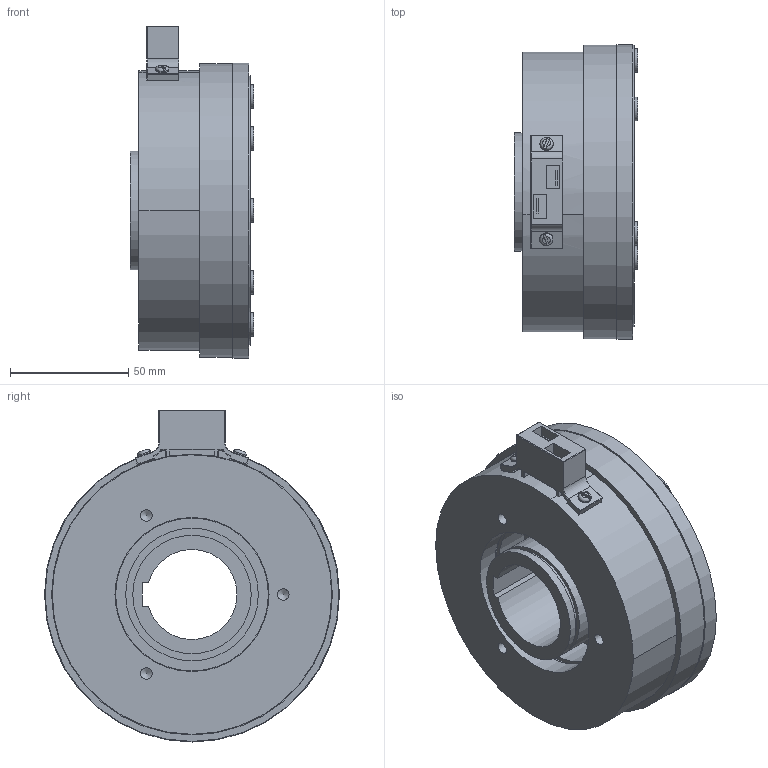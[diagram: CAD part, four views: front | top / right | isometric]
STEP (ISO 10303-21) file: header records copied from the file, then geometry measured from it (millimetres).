
FILE_DESCRIPTION(/* description */ (''),/* implementation_level */ '2;1');
FILE_NAME(/* name */ 'X:\INVENTOR\DISEGNI\08_Freni_Friz_Elettmag_Monodisco\08_26 EMSL_DF\EMSL_DF STEP\08_26_120_21 EMSL120_DF-BM_S@STEP.stp',/* time_stamp */ '2018-04-24T08:22:56+02:00',/* author */ ('stefano'),/* organization */ (''),/* preprocessor_version */ 'ST-DEVELOPER v17',/* originating_system */ 'Autodesk Inventor 2018',/* authorisation */ '');
FILE_SCHEMA (('AUTOMOTIVE_DESIGN { 1 0 10303 214 3 1 1 }'));
Length unit declared in the file: millimetre
Products named in the file (1): 08_26_120_21 EMSL120_DF-BM - Spina_Substitute_1
Bounding box: 52 x 124.5 x 140.13 mm (x, y, z)
Volume: 349848.9 mm3; surface area: 128576.5 mm2
Topology: 3 solids, 3 shells, 401 faces, 1083 edges, 697 vertices
Faces by surface type: cylinder 228, plane 105, torus 28, sphere 24, cone 16
Full cylindrical faces by diameter (mm): 2.2 x6, 3 x2, 4.917 x3, 5.6 x2, 6 x1, 6.1 x3, 7.5 x6, 10 x6, 47 x1, 50 x2, 56 x1, 59 x1, 64.5 x1, 65 x2, 68 x1, 77 x1, 86 x2, 104 x2, 110.5 x1, 118.5 x1, 124 x1, 124.5 x1
Entity records: 13398 total; most frequent: DIRECTION 2491, CARTESIAN_POINT 2344, ORIENTED_EDGE 2114, EDGE_CURVE 1057, AXIS2_PLACEMENT_3D 1049, VERTEX_POINT 697, CIRCLE 647, EDGE_LOOP 506
